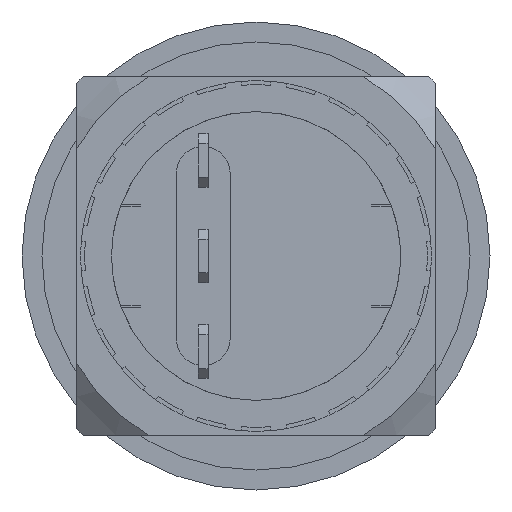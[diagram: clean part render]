
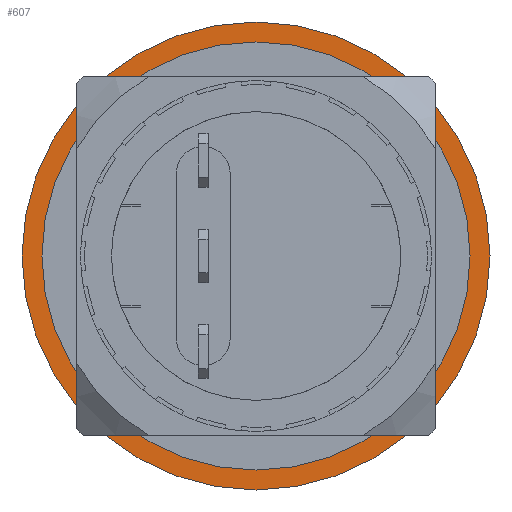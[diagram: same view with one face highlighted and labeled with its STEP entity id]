
A CAD part, front view. The second image highlights one B-rep face of the part: STEP entity #607.
In plain terms, the highlighted planar face has unit normal (0, -1, 0).
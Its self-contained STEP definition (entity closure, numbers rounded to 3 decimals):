
#607 = ADVANCED_FACE ( 'NONE', ( #7272, #7279 ), #5062, .T. ) ;
#820 = VERTEX_POINT ( 'NONE', #3256 ) ;
#834 = VERTEX_POINT ( 'NONE', #3270 ) ;
#905 = VERTEX_POINT ( 'NONE', #3341 ) ;
#969 = VERTEX_POINT ( 'NONE', #3405 ) ;
#1528 = ORIENTED_EDGE ( 'NONE', *, *, #2700, .T. ) ;
#1529 = ORIENTED_EDGE ( 'NONE', *, *, #6016, .T. ) ;
#1530 = ORIENTED_EDGE ( 'NONE', *, *, #6020, .F. ) ;
#1531 = ORIENTED_EDGE ( 'NONE', *, *, #2699, .F. ) ;
#2095 = CARTESIAN_POINT ( 'NONE',  ( 0., 26.7, 0. ) ) ;
#2096 = DIRECTION ( 'NONE',  ( 0., 1., 0. ) ) ;
#2097 = DIRECTION ( 'NONE',  ( -1., 0., 0. ) ) ;
#2098 = CARTESIAN_POINT ( 'NONE',  ( 0., 26.7, 0. ) ) ;
#2099 = DIRECTION ( 'NONE',  ( 0., 1., 0. ) ) ;
#2100 = DIRECTION ( 'NONE',  ( -1., 0., 0. ) ) ;
#2699 = EDGE_CURVE ( 'NONE', #905, #834, #6133, .T. ) ;
#2700 = EDGE_CURVE ( 'NONE', #969, #820, #6134, .T. ) ;
#3256 = CARTESIAN_POINT ( 'NONE',  ( 10.75, 26.7, 0. ) ) ;
#3270 = CARTESIAN_POINT ( 'NONE',  ( -11.75, 26.7, 0. ) ) ;
#3341 = CARTESIAN_POINT ( 'NONE',  ( 11.75, 26.7, 0. ) ) ;
#3405 = CARTESIAN_POINT ( 'NONE',  ( -10.75, 26.7, 0. ) ) ;
#4247 = CARTESIAN_POINT ( 'NONE',  ( 0., 26.7, 0. ) ) ;
#4248 = DIRECTION ( 'NONE',  ( 0., 1., 0. ) ) ;
#4249 = DIRECTION ( 'NONE',  ( -1., 0., 0. ) ) ;
#4259 = CARTESIAN_POINT ( 'NONE',  ( 0., 26.7, 0. ) ) ;
#4260 = DIRECTION ( 'NONE',  ( 0., 1., 0. ) ) ;
#4261 = DIRECTION ( 'NONE',  ( -1., 0., 0. ) ) ;
#5062 = PLANE ( 'NONE',  #7297 ) ;
#5063 = CARTESIAN_POINT ( 'NONE',  ( -10.75, 26.7, 0. ) ) ;
#5064 = DIRECTION ( 'NONE',  ( 0., -1., 0. ) ) ;
#5065 = DIRECTION ( 'NONE',  ( 1., 0., 0. ) ) ;
#5676 = EDGE_LOOP ( 'NONE', ( #1530, #1531 ) ) ;
#5677 = EDGE_LOOP ( 'NONE', ( #1528, #1529 ) ) ;
#6016 = EDGE_CURVE ( 'NONE', #820, #969, #6217, .T. ) ;
#6020 = EDGE_CURVE ( 'NONE', #834, #905, #6219, .T. ) ;
#6133 = CIRCLE ( 'NONE', #7084, 11.75 ) ;
#6134 = CIRCLE ( 'NONE', #6962, 10.75 ) ;
#6217 = CIRCLE ( 'NONE', #6313, 10.75 ) ;
#6219 = CIRCLE ( 'NONE', #6298, 11.75 ) ;
#6298 = AXIS2_PLACEMENT_3D ( 'NONE', #4259, #4260, #4261 ) ;
#6313 = AXIS2_PLACEMENT_3D ( 'NONE', #4247, #4248, #4249 ) ;
#6962 = AXIS2_PLACEMENT_3D ( 'NONE', #2098, #2099, #2100 ) ;
#7084 = AXIS2_PLACEMENT_3D ( 'NONE', #2095, #2096, #2097 ) ;
#7272 = FACE_BOUND ( 'NONE', #5677, .T. ) ;
#7279 = FACE_OUTER_BOUND ( 'NONE', #5676, .T. ) ;
#7297 = AXIS2_PLACEMENT_3D ( 'NONE', #5063, #5064, #5065 ) ;
